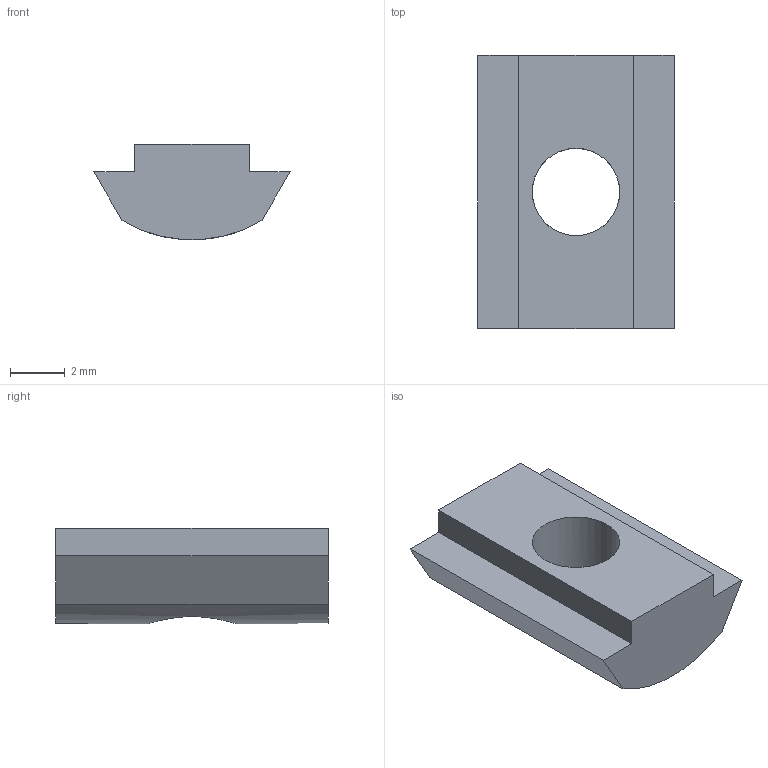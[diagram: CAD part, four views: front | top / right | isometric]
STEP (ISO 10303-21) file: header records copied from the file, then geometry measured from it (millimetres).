
FILE_DESCRIPTION(/* description */ ('Unknown'),/* implementation_level */ '2;1');
FILE_NAME(/* name */ 'IS04',/* time_stamp */ '2026-09-17T11:18:51+08:00',/* author */ ('Unknown'),/* organization */ ('Unknown'),/* preprocessor_version */ 'ST-DEVELOPER v16.7',/* originating_system */ 'DEX',/* authorisation */ $);
FILE_SCHEMA (('AUTOMOTIVE_DESIGN {1 0 10303 214 3 1 1}'));
Length unit declared in the file: millimetre
Products named in the file (1): NTF04M4
Bounding box: 7.2 x 10 x 3.5 mm (x, y, z)
Volume: 149.4 mm3; surface area: 240.4 mm2
Topology: 1 solids, 1 shells, 11 faces, 27 edges, 18 vertices
Faces by surface type: plane 9, cylinder 2
Full cylindrical faces by diameter (mm): 3.2 x1
Entity records: 432 total; most frequent: CARTESIAN_POINT 66, ORIENTED_EDGE 52, DIRECTION 52, EDGE_CURVE 26, LINE 22, VECTOR 22, VERTEX_POINT 18, AXIS2_PLACEMENT_3D 15
